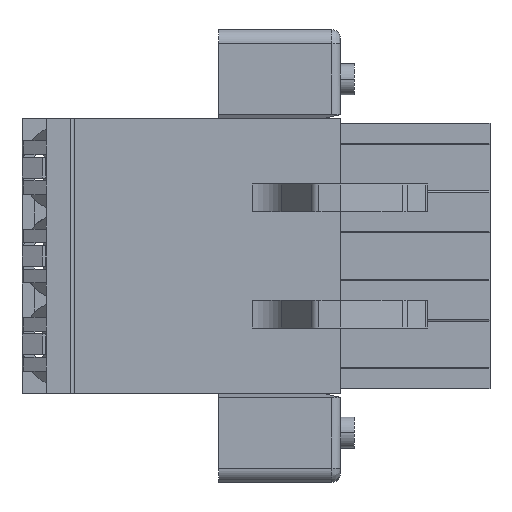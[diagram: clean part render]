
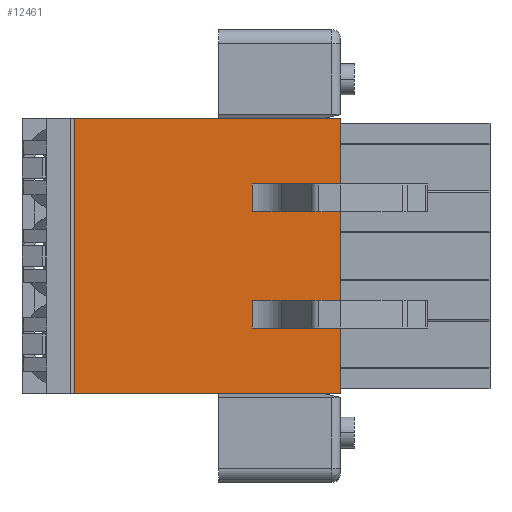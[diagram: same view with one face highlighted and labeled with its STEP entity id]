
A CAD part, front view. The second image highlights one B-rep face of the part: STEP entity #12461.
In plain terms, the highlighted planar face has unit normal (0, -1, 0).
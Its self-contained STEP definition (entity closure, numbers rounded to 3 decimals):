
#636=DIRECTION('',(-1.,0.,0.));
#637=VECTOR('',#636,5.075);
#638=CARTESIAN_POINT('',(18.302,1.,-15.55));
#639=LINE('',#638,#637);
#640=DIRECTION('',(1.,0.,0.));
#641=VECTOR('',#640,5.075);
#642=CARTESIAN_POINT('',(13.227,1.,-17.15));
#643=LINE('',#642,#641);
#644=DIRECTION('',(0.,0.,-1.));
#645=VECTOR('',#644,3.79);
#646=CARTESIAN_POINT('',(18.302,1.,-17.15));
#647=LINE('',#646,#645);
#648=DIRECTION('',(-1.,0.,0.));
#649=VECTOR('',#648,15.3);
#650=CARTESIAN_POINT('',(18.302,1.,-20.94));
#651=LINE('',#650,#649);
#652=DIRECTION('',(0.,0.,1.));
#653=VECTOR('',#652,15.86);
#654=CARTESIAN_POINT('',(3.002,1.,-20.94));
#655=LINE('',#654,#653);
#656=DIRECTION('',(1.,0.,0.));
#657=VECTOR('',#656,15.3);
#658=CARTESIAN_POINT('',(3.002,1.,-5.08));
#659=LINE('',#658,#657);
#660=DIRECTION('',(0.,0.,-1.));
#661=VECTOR('',#660,3.79);
#662=CARTESIAN_POINT('',(18.302,1.,-5.08));
#663=LINE('',#662,#661);
#664=DIRECTION('',(-1.,0.,0.));
#665=VECTOR('',#664,5.075);
#666=CARTESIAN_POINT('',(18.302,1.,-8.87));
#667=LINE('',#666,#665);
#668=DIRECTION('',(0.,0.,-1.));
#669=VECTOR('',#668,5.08);
#670=CARTESIAN_POINT('',(18.302,1.,-10.47));
#671=LINE('',#670,#669);
#7638=DIRECTION('',(0.,0.,1.));
#7639=VECTOR('',#7638,1.6);
#7640=CARTESIAN_POINT('',(13.227,1.,-17.15));
#7641=LINE('',#7640,#7639);
#7646=DIRECTION('',(-1.,0.,0.));
#7647=VECTOR('',#7646,5.075);
#7648=CARTESIAN_POINT('',(18.302,1.,-10.47));
#7649=LINE('',#7648,#7647);
#7722=DIRECTION('',(0.,0.,1.));
#7723=VECTOR('',#7722,1.6);
#7724=CARTESIAN_POINT('',(13.227,1.,-10.47));
#7725=LINE('',#7724,#7723);
#9646=CARTESIAN_POINT('',(3.002,1.,-20.94));
#9647=CARTESIAN_POINT('',(3.002,1.,-5.08));
#9648=VERTEX_POINT('',#9646);
#9649=VERTEX_POINT('',#9647);
#9650=CARTESIAN_POINT('',(18.302,1.,-15.55));
#9651=CARTESIAN_POINT('',(13.227,1.,-15.55));
#9652=VERTEX_POINT('',#9650);
#9653=VERTEX_POINT('',#9651);
#9654=CARTESIAN_POINT('',(13.227,1.,-17.15));
#9655=VERTEX_POINT('',#9654);
#9656=CARTESIAN_POINT('',(18.302,1.,-17.15));
#9657=VERTEX_POINT('',#9656);
#9658=CARTESIAN_POINT('',(18.302,1.,-20.94));
#9659=VERTEX_POINT('',#9658);
#9660=CARTESIAN_POINT('',(18.302,1.,-5.08));
#9661=VERTEX_POINT('',#9660);
#9662=CARTESIAN_POINT('',(18.302,1.,-8.87));
#9663=VERTEX_POINT('',#9662);
#9664=CARTESIAN_POINT('',(13.227,1.,-8.87));
#9665=VERTEX_POINT('',#9664);
#9666=CARTESIAN_POINT('',(13.227,1.,-10.47));
#9667=VERTEX_POINT('',#9666);
#9668=CARTESIAN_POINT('',(18.302,1.,-10.47));
#9669=VERTEX_POINT('',#9668);
#12431=CARTESIAN_POINT('',(10.652,1.,-20.63));
#12432=DIRECTION('',(0.,1.,0.));
#12433=DIRECTION('',(1.,0.,0.));
#12434=AXIS2_PLACEMENT_3D('',#12431,#12432,#12433);
#12435=PLANE('',#12434);
#12437=ORIENTED_EDGE('',*,*,#12436,.T.);
#12439=ORIENTED_EDGE('',*,*,#12438,.F.);
#12441=ORIENTED_EDGE('',*,*,#12440,.T.);
#12443=ORIENTED_EDGE('',*,*,#12442,.T.);
#12445=ORIENTED_EDGE('',*,*,#12444,.T.);
#12446=ORIENTED_EDGE('',*,*,#12421,.T.);
#12448=ORIENTED_EDGE('',*,*,#12447,.T.);
#12450=ORIENTED_EDGE('',*,*,#12449,.T.);
#12452=ORIENTED_EDGE('',*,*,#12451,.T.);
#12454=ORIENTED_EDGE('',*,*,#12453,.F.);
#12456=ORIENTED_EDGE('',*,*,#12455,.F.);
#12458=ORIENTED_EDGE('',*,*,#12457,.T.);
#12459=EDGE_LOOP('',(#12437,#12439,#12441,#12443,#12445,#12446,#12448,#12450,
#12452,#12454,#12456,#12458));
#12460=FACE_OUTER_BOUND('',#12459,.F.);
#12461=ADVANCED_FACE('',(#12460),#12435,.F.);
#12421=EDGE_CURVE('',#9648,#9649,#655,.T.);
#12436=EDGE_CURVE('',#9652,#9653,#639,.T.);
#12438=EDGE_CURVE('',#9655,#9653,#7641,.T.);
#12440=EDGE_CURVE('',#9655,#9657,#643,.T.);
#12442=EDGE_CURVE('',#9657,#9659,#647,.T.);
#12444=EDGE_CURVE('',#9659,#9648,#651,.T.);
#12447=EDGE_CURVE('',#9649,#9661,#659,.T.);
#12449=EDGE_CURVE('',#9661,#9663,#663,.T.);
#12451=EDGE_CURVE('',#9663,#9665,#667,.T.);
#12453=EDGE_CURVE('',#9667,#9665,#7725,.T.);
#12455=EDGE_CURVE('',#9669,#9667,#7649,.T.);
#12457=EDGE_CURVE('',#9669,#9652,#671,.T.);
